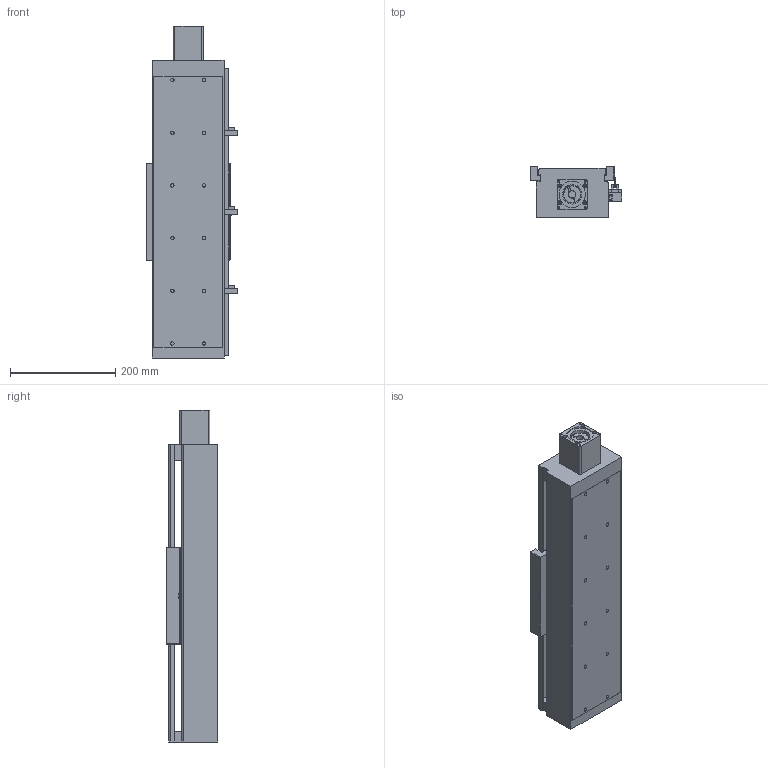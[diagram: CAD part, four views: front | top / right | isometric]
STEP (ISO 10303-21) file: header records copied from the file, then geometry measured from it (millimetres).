
FILE_DESCRIPTION((''),'2;1');
FILE_NAME('E:\libraries\UIA actuator library 2009\standard actuator\UIA136 ball screw 25\UIA136R15NDC-_ _ _-R25_ _, stp file 27Apr16\UIA136R15NDC-300-R25_ _-M60-P13-C10-S.stp','2016-04-28T14:22:19',('h029'),(''),'Autodesk Inventor 11','Autodesk Inventor 11','');
FILE_SCHEMA(('AUTOMOTIVE_DESIGN { 1 0 10303 214 1 1 1 1 }'));
Length unit declared in the file: millimetre
Products named in the file (10): UIA136R15NDC-300; UIA136R15NDC-body; motor mount F60; SOH-32C; SOH-32C-3; SOH-32C-1; SOH-32C-2; Carriage; Sensor Switch; sensor rail
Assembly tree (9 placements, depth 3):
  UIA136R15NDC-300
    UIA136R15NDC-body
    motor mount F60
    SOH-32C
      SOH-32C-3
      SOH-32C-1
      SOH-32C-2
    Carriage
    Sensor Switch
    sensor rail
Bounding box: 174.5 x 98 x 630 mm (x, y, z)
Volume: 2773268.7 mm3; surface area: 704524.3 mm2
Topology: 8 solids, 8 shells, 492 faces, 1307 edges, 854 vertices
Faces by surface type: plane 322, bspline 122, cylinder 44, cone 4
Full cylindrical faces by diameter (mm): 2.459 x2, 3.242 x2, 4.5 x2, 7 x4, 7.5 x2, 14 x3, 17 x1, 32 x3, 37 x1, 50.3 x1, 50.5 x1
Entity records: 16044 total; most frequent: CARTESIAN_POINT 4508, ORIENTED_EDGE 2240, DIRECTION 2194, EDGE_CURVE 1120, VECTOR 808, LINE 808, VERTEX_POINT 790, EDGE_LOOP 716
